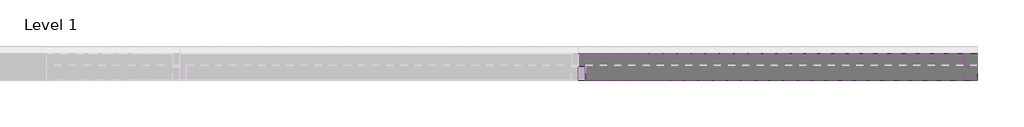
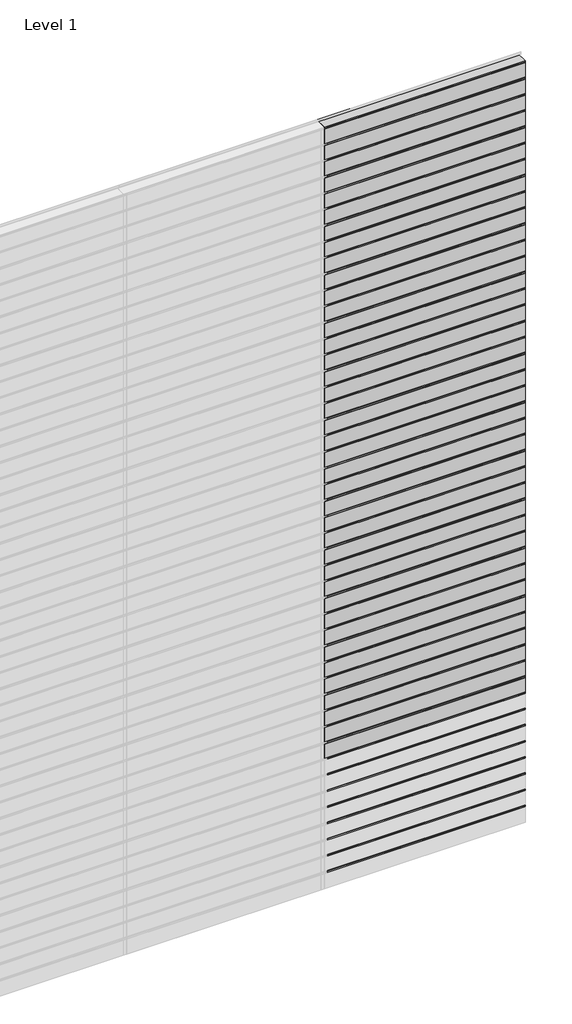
# One storey, part 6 of 6: 87 plates, 47 members.
"""IFC4 building model written with IfcOpenShell, lengths in millimetres."""

import ifcopenshell
import ifcopenshell.guid

model = None  # the IFC model being written
_history = None  # IfcOwnerHistory: only IFC2X3 demands one
_inside = {}  # id of a spatial element -> (the spatial element, [elements in it])
_under = {}  # id of a project, library or spatial element -> (it, [spatial elements below it])
_declared = {}  # id of a project -> (the project, [libraries it declares])
_typed = {}  # id of a type object -> (the type object, [elements of that type])
_made_of = {}  # id of a material, layer set ... -> (it, [elements and type objects made of it])


def new_model(schema):
    """Start an empty IFC model of exactly this schema.

    Asked for "IFC4X3", IfcOpenShell would pick the latest addendum, in which some entities
    have other attributes; the version numbers below select the first issue.
    IFC2X3 requires an IfcOwnerHistory on every rooted entity: one is made here for all.
    """
    global model, _history
    if schema == "IFC4X3":
        model = ifcopenshell.file(schema_version=(4, 3, 0, 0))
    else:
        model = ifcopenshell.file(schema=schema)
    _inside.clear()
    _under.clear()
    _declared.clear()
    _typed.clear()
    _made_of.clear()
    _history = None
    if model.schema == "IFC2X3":
        org = make("IfcOrganization", Name="unknown")
        user = make(
            "IfcPersonAndOrganization",
            ThePerson=make("IfcPerson", FamilyName="unknown"),
            TheOrganization=org,
        )
        app = make(
            "IfcApplication",
            ApplicationDeveloper=org,
            Version="unknown",
            ApplicationFullName="unknown",
            ApplicationIdentifier="unknown",
        )
        _history = make(
            "IfcOwnerHistory",
            OwningUser=user,
            OwningApplication=app,
            ChangeAction="ADDED",
            CreationDate=0,
        )
    return model


def make(cls, **values):
    """One entity of the class cls with the attributes given. An attribute that is None is left unset."""
    return model.create_entity(
        cls, **{name: value for name, value in values.items() if value is not None}
    )


def rooted(cls, **values):
    """An entity with a GlobalId (a new one), such as an element, a storey or a relation."""
    return make(cls, GlobalId=ifcopenshell.guid.new(), OwnerHistory=_history, **values)


def si_unit(unit_type, name, prefix=None):
    """IfcSIUnit, for example si_unit("LENGTHUNIT", "METRE", prefix="MILLI")."""
    return make("IfcSIUnit", UnitType=unit_type, Prefix=prefix, Name=name)


def assignment(units):
    """IfcUnitAssignment: the units of a project."""
    return None if units is None else make("IfcUnitAssignment", Units=units)


def point(xyz):
    """IfcCartesianPoint."""
    return None if xyz is None else make("IfcCartesianPoint", Coordinates=xyz)


def direction(xyz):
    """IfcDirection."""
    return None if xyz is None else make("IfcDirection", DirectionRatios=xyz)


def frame(location, z_axis=None, x_axis=None):
    """IfcAxis2Placement3D, a coordinate frame: its origin and axes. An axis left out is left unset."""
    return make(
        "IfcAxis2Placement3D",
        Location=point(location),
        Axis=direction(z_axis),
        RefDirection=direction(x_axis),
    )


def origin():
    """The frame at (0, 0, 0) with its axes left unset."""
    return frame((0.0, 0.0, 0.0))


def origin_with_axes():
    """The frame at (0, 0, 0) with the z axis (0, 0, 1) and the x axis (1, 0, 0) written out."""
    return frame((0.0, 0.0, 0.0), z_axis=(0.0, 0.0, 1.0), x_axis=(1.0, 0.0, 0.0))


def place(relative_to, where):
    """IfcLocalPlacement: puts the frame where relative to a parent placement (None: the world)."""
    return make(
        "IfcLocalPlacement", PlacementRelTo=relative_to, RelativePlacement=where
    )


def context(
    kind, dimensions, precision=None, world=None, true_north=None, identifier=None
):
    """IfcGeometricRepresentationContext, for example the 3D "Model" context."""
    return make(
        "IfcGeometricRepresentationContext",
        ContextIdentifier=identifier,
        ContextType=kind,
        CoordinateSpaceDimension=dimensions,
        Precision=precision,
        WorldCoordinateSystem=world,
        TrueNorth=true_north,
    )


def project(units=None, contexts=None):
    """IfcProject with its units and contexts."""
    return rooted(
        "IfcProject",
        Name="project",
        RepresentationContexts=contexts,
        UnitsInContext=assignment(units),
    )


def spatial(cls, under=None, at=None, **own):
    """A site, building, storey or space (cls), placed at a placement, below another one or the project."""
    s = rooted(cls, ObjectPlacement=at, **own)
    if under is not None:
        _under.setdefault(under.id(), (under, []))[1].append(s)
    return s


def polyline(points):
    """IfcPolyline through the points."""
    return make("IfcPolyline", Points=[point(p) for p in points])


def outline(outer, holes=None, kind="AREA"):
    """IfcArbitraryClosedProfileDef: a profile drawn as a closed curve; with holes, ...WithVoids."""
    if holes is None:
        return make("IfcArbitraryClosedProfileDef", ProfileType=kind, OuterCurve=outer)
    return make(
        "IfcArbitraryProfileDefWithVoids",
        ProfileType=kind,
        OuterCurve=outer,
        InnerCurves=holes,
    )


def extrude(swept, where, along, depth):
    """IfcExtrudedAreaSolid: the profile swept, set in the frame where, extruded along a direction by depth."""
    return make(
        "IfcExtrudedAreaSolid",
        SweptArea=swept,
        Position=where,
        ExtrudedDirection=direction(along),
        Depth=depth,
    )


def shape(context_of_items, identifier, shape_type, items):
    """IfcShapeRepresentation: the items that make up one representation, for example the "Body"."""
    return make(
        "IfcShapeRepresentation",
        ContextOfItems=context_of_items,
        RepresentationIdentifier=identifier,
        RepresentationType=shape_type,
        Items=items,
    )


def source(mapping_origin, context_of_items, identifier, shape_type, items):
    """IfcRepresentationMap: a shape defined once, which mapped items show again and again."""
    return make(
        "IfcRepresentationMap",
        MappingOrigin=mapping_origin,
        MappedRepresentation=shape(context_of_items, identifier, shape_type, items),
    )


def transform(
    local_origin,
    x_axis=None,
    y_axis=None,
    z_axis=None,
    scale=None,
    scale2=None,
    scale3=None,
    uniform=True,
):
    """IfcCartesianTransformationOperator3D, or its non-uniform kind. x_axis, y_axis, z_axis: its Axis1, 2, 3."""
    if uniform:
        return make(
            "IfcCartesianTransformationOperator3D",
            Axis1=direction(x_axis),
            Axis2=direction(y_axis),
            LocalOrigin=point(local_origin),
            Scale=scale,
            Axis3=direction(z_axis),
        )
    return make(
        "IfcCartesianTransformationOperator3DnonUniform",
        Axis1=direction(x_axis),
        Axis2=direction(y_axis),
        LocalOrigin=point(local_origin),
        Scale=scale,
        Axis3=direction(z_axis),
        Scale2=scale2,
        Scale3=scale3,
    )


def mapped(mapping_source, mapping_target):
    """IfcMappedItem: shows the shape of a source again, moved by a transform."""
    return make(
        "IfcMappedItem", MappingSource=mapping_source, MappingTarget=mapping_target
    )


def made_of(thing, what):
    """Note that an element or type object is made of a material, layer set ...; save() writes the relation."""
    if what is not None:
        _made_of.setdefault(what.id(), (what, []))[1].append(thing)
    return thing


def element(
    cls,
    number,
    at=None,
    inside=None,
    cuts=None,
    type_object=None,
    material=None,
    context=None,
    identifier="Body",
    shape_type=None,
    held_by="IfcProductDefinitionShape",
    body=None,
    shapes=None,
    **own,
):
    """One element of the class cls, such as IfcWall. Its Tag is "e" and its number.

    at: its placement. inside: the storey or other place that contains it. cuts: it is an
    opening in that element (IfcRelVoidsElement). A single representation is given by context,
    identifier, shape_type and body (its items); several are given by shapes. held_by: the class
    of the entity that holds the representations. save() writes the other relations.
    """
    e = rooted(cls, Tag="e%d" % number, ObjectPlacement=at, **own)
    if body is not None:
        shapes = [shape(context, identifier, shape_type, body)]
    if shapes is not None:
        e.Representation = make(held_by, Representations=shapes)
    if inside is not None:
        _inside.setdefault(inside.id(), (inside, []))[1].append(e)
    if cuts is not None:
        rooted(
            "IfcRelVoidsElement", RelatingBuildingElement=cuts, RelatedOpeningElement=e
        )
    if type_object is not None:
        _typed.setdefault(type_object.id(), (type_object, []))[1].append(e)
    return made_of(e, material)


def aggregate(whole, parts):
    """IfcRelAggregates: a whole, such as a stair, and the parts it consists of."""
    return rooted("IfcRelAggregates", RelatingObject=whole, RelatedObjects=parts)


def save(model, path):
    """Write the relations noted so far, then the file.

    IfcRelAggregates (storeys below a building ...), IfcRelContainedInSpatialStructure (elements
    in a storey), IfcRelDefinesByType, IfcRelAssociatesMaterial and IfcRelDeclares: one each for
    every whole, place, type object, material and project.
    """
    for whole, parts in _under.values():
        aggregate(whole, parts)
    for where, things in _inside.values():
        rooted(
            "IfcRelContainedInSpatialStructure",
            RelatedElements=things,
            RelatingStructure=where,
        )
    for kind, things in _typed.values():
        rooted("IfcRelDefinesByType", RelatedObjects=things, RelatingType=kind)
    for what, things in _made_of.values():
        rooted("IfcRelAssociatesMaterial", RelatedObjects=things, RelatingMaterial=what)
    for by, libraries in _declared.values():
        rooted("IfcRelDeclares", RelatingContext=by, RelatedDefinitions=libraries)
    model.write(path)


def rectangular_mullion_5ead61f5(model_context):
    return source(origin(), model_context, "Body", "SweptSolid", [
        extrude(outline(polyline([(-50.0, 1.0), (0.0, 1.0), (0.0, -49.0), (-50.0, -49.0), (-50.0, 1.0)])), frame((0.0, 0.0, -127.5), z_axis=(0.0, 0.0, 1.0), x_axis=(1.0, 0.0, 0.0)), (0.0, 0.0, 1.0), 127.5),
    ])


def empty_system_panel_empty_a47fb649(model_context):
    return source(origin(), model_context, "Body", "SweptSolid", [
        extrude(outline(polyline([(750.0, -50.0), (-750.0, -50.0), (-750.0, 50.0), (750.0, 50.0), (750.0, -50.0)])), origin_with_axes(), (0.0, 0.0, 1.0), 110.5294373),
    ])


def empty_system_panel_empty_cd94e0d4(model_context):
    return source(origin(), model_context, "Body", "SweptSolid", [
        extrude(outline(polyline([(712.5, -50.0), (-712.5, -50.0), (-712.5, 50.0), (712.5, 50.0), (712.5, -50.0)])), origin_with_axes(), (0.0, 0.0, 1.0), 127.5),
    ])


def empty_system_panel_empty_03f415d5(model_context):
    return source(origin(), model_context, "Body", "SweptSolid", [
        extrude(outline(polyline([(750.0, -50.0), (-750.0, -50.0), (-750.0, 50.0), (750.0, 50.0), (750.0, -50.0)])), origin_with_axes(), (0.0, 0.0, 1.0), 7.5),
    ])


model = new_model("IFC4")

# Units and contexts
model_context = context("Model", 3, world=origin())
ifc_project = project(units=[si_unit("LENGTHUNIT", "METRE", prefix="MILLI")], contexts=[model_context])

# Site, building, storey
site = spatial("IfcSite", under=ifc_project)
building = spatial("IfcBuilding", under=site)
storey = spatial("IfcBuildingStorey", under=building, Name="Level 1", Elevation=0.0)

# Members
placement = place(None, origin())
rectangular_mullion_shape = rectangular_mullion_5ead61f5(model_context)
element("IfcMember", 1, ObjectType="Rectangular Mullion : RSen_21_CWM_support profile 50x50 - right_gen_duco projects", at=placement, inside=storey, context=model_context, shape_type="MappedRepresentation", body=[
    mapped(rectangular_mullion_shape, transform((6000.0, 3000.0, 127.5), x_axis=(1.0, 0.0, 0.0), y_axis=(0.0, 1.0, 0.0), z_axis=(0.0, 0.0, 1.0))),
])
element("IfcMember", 2, ObjectType="Rectangular Mullion : RSen_21_CWM_support profile 50x50 - right_gen_duco projects", at=placement, inside=storey, context=model_context, shape_type="MappedRepresentation", body=[
    mapped(rectangular_mullion_shape, transform((6000.0, 3000.0, 255.0), x_axis=(1.0, 0.0, 0.0), y_axis=(0.0, 1.0, 0.0), z_axis=(0.0, 0.0, 1.0))),
])
element("IfcMember", 3, ObjectType="Rectangular Mullion : RSen_21_CWM_support profile 50x50 - right_gen_duco projects", at=placement, inside=storey, context=model_context, shape_type="MappedRepresentation", body=[
    mapped(rectangular_mullion_shape, transform((6000.0, 3000.0, 382.5), x_axis=(1.0, 0.0, 0.0), y_axis=(0.0, 1.0, 0.0), z_axis=(0.0, 0.0, 1.0))),
])
element("IfcMember", 4, ObjectType="Rectangular Mullion : RSen_21_CWM_support profile 50x50 - right_gen_duco projects", at=placement, inside=storey, context=model_context, shape_type="MappedRepresentation", body=[
    mapped(rectangular_mullion_shape, transform((6000.0, 3000.0, 510.0), x_axis=(1.0, 0.0, 0.0), y_axis=(0.0, 1.0, 0.0), z_axis=(0.0, 0.0, 1.0))),
])
element("IfcMember", 5, ObjectType="Rectangular Mullion : RSen_21_CWM_support profile 50x50 - right_gen_duco projects", at=placement, inside=storey, context=model_context, shape_type="MappedRepresentation", body=[
    mapped(rectangular_mullion_shape, transform((6000.0, 3000.0, 637.5), x_axis=(1.0, 0.0, 0.0), y_axis=(0.0, 1.0, 0.0), z_axis=(0.0, 0.0, 1.0))),
])
element("IfcMember", 6, ObjectType="Rectangular Mullion : RSen_21_CWM_support profile 50x50 - right_gen_duco projects", at=placement, inside=storey, context=model_context, shape_type="MappedRepresentation", body=[
    mapped(rectangular_mullion_shape, transform((6000.0, 3000.0, 765.0), x_axis=(1.0, 0.0, 0.0), y_axis=(0.0, 1.0, 0.0), z_axis=(0.0, 0.0, 1.0))),
])
element("IfcMember", 7, ObjectType="Rectangular Mullion : RSen_21_CWM_support profile 50x50 - right_gen_duco projects", at=placement, inside=storey, context=model_context, shape_type="MappedRepresentation", body=[
    mapped(rectangular_mullion_shape, transform((6000.0, 3000.0, 892.5), x_axis=(1.0, 0.0, 0.0), y_axis=(0.0, 1.0, 0.0), z_axis=(0.0, 0.0, 1.0))),
])
element("IfcMember", 8, ObjectType="Rectangular Mullion : RSen_21_CWM_support profile 50x50 - right_gen_duco projects", at=placement, inside=storey, context=model_context, shape_type="MappedRepresentation", body=[
    mapped(rectangular_mullion_shape, transform((6000.0, 3000.0, 1020.0), x_axis=(1.0, 0.0, 0.0), y_axis=(0.0, 1.0, 0.0), z_axis=(0.0, 0.0, 1.0))),
])
element("IfcMember", 9, ObjectType="Rectangular Mullion : RSen_21_CWM_support profile 50x50 - right_gen_duco projects", at=placement, inside=storey, context=model_context, shape_type="MappedRepresentation", body=[
    mapped(rectangular_mullion_shape, transform((6000.0, 3000.0, 1147.5), x_axis=(1.0, 0.0, 0.0), y_axis=(0.0, 1.0, 0.0), z_axis=(0.0, 0.0, 1.0))),
])
element("IfcMember", 10, ObjectType="Rectangular Mullion : RSen_21_CWM_support profile 50x50 - right_gen_duco projects", at=placement, inside=storey, context=model_context, shape_type="MappedRepresentation", body=[
    mapped(rectangular_mullion_shape, transform((6000.0, 3000.0, 1275.0), x_axis=(1.0, 0.0, 0.0), y_axis=(0.0, 1.0, 0.0), z_axis=(0.0, 0.0, 1.0))),
])
element("IfcMember", 11, ObjectType="Rectangular Mullion : RSen_21_CWM_support profile 50x50 - right_gen_duco projects", at=placement, inside=storey, context=model_context, shape_type="MappedRepresentation", body=[
    mapped(rectangular_mullion_shape, transform((6000.0, 3000.0, 1402.5), x_axis=(1.0, 0.0, 0.0), y_axis=(0.0, 1.0, 0.0), z_axis=(0.0, 0.0, 1.0))),
])
element("IfcMember", 12, ObjectType="Rectangular Mullion : RSen_21_CWM_support profile 50x50 - right_gen_duco projects", at=placement, inside=storey, context=model_context, shape_type="MappedRepresentation", body=[
    mapped(rectangular_mullion_shape, transform((6000.0, 3000.0, 1530.0), x_axis=(1.0, 0.0, 0.0), y_axis=(0.0, 1.0, 0.0), z_axis=(0.0, 0.0, 1.0))),
])
element("IfcMember", 13, ObjectType="Rectangular Mullion : RSen_21_CWM_support profile 50x50 - right_gen_duco projects", at=placement, inside=storey, context=model_context, shape_type="MappedRepresentation", body=[
    mapped(rectangular_mullion_shape, transform((6000.0, 3000.0, 1657.5), x_axis=(1.0, 0.0, 0.0), y_axis=(0.0, 1.0, 0.0), z_axis=(0.0, 0.0, 1.0))),
])
element("IfcMember", 14, ObjectType="Rectangular Mullion : RSen_21_CWM_support profile 50x50 - right_gen_duco projects", at=placement, inside=storey, context=model_context, shape_type="MappedRepresentation", body=[
    mapped(rectangular_mullion_shape, transform((6000.0, 3000.0, 1785.0), x_axis=(1.0, 0.0, 0.0), y_axis=(0.0, 1.0, 0.0), z_axis=(0.0, 0.0, 1.0))),
])
element("IfcMember", 15, ObjectType="Rectangular Mullion : RSen_21_CWM_support profile 50x50 - right_gen_duco projects", at=placement, inside=storey, context=model_context, shape_type="MappedRepresentation", body=[
    mapped(rectangular_mullion_shape, transform((6000.0, 3000.0, 1912.5), x_axis=(1.0, 0.0, 0.0), y_axis=(0.0, 1.0, 0.0), z_axis=(0.0, 0.0, 1.0))),
])
element("IfcMember", 16, ObjectType="Rectangular Mullion : RSen_21_CWM_support profile 50x50 - right_gen_duco projects", at=placement, inside=storey, context=model_context, shape_type="MappedRepresentation", body=[
    mapped(rectangular_mullion_shape, transform((6000.0, 3000.0, 2040.0), x_axis=(1.0, 0.0, 0.0), y_axis=(0.0, 1.0, 0.0), z_axis=(0.0, 0.0, 1.0))),
])
element("IfcMember", 17, ObjectType="Rectangular Mullion : RSen_21_CWM_support profile 50x50 - right_gen_duco projects", at=placement, inside=storey, context=model_context, shape_type="MappedRepresentation", body=[
    mapped(rectangular_mullion_shape, transform((6000.0, 3000.0, 2167.5), x_axis=(1.0, 0.0, 0.0), y_axis=(0.0, 1.0, 0.0), z_axis=(0.0, 0.0, 1.0))),
])
element("IfcMember", 18, ObjectType="Rectangular Mullion : RSen_21_CWM_support profile 50x50 - right_gen_duco projects", at=placement, inside=storey, context=model_context, shape_type="MappedRepresentation", body=[
    mapped(rectangular_mullion_shape, transform((6000.0, 3000.0, 2295.0), x_axis=(1.0, 0.0, 0.0), y_axis=(0.0, 1.0, 0.0), z_axis=(0.0, 0.0, 1.0))),
])
element("IfcMember", 19, ObjectType="Rectangular Mullion : RSen_21_CWM_support profile 50x50 - right_gen_duco projects", at=placement, inside=storey, context=model_context, shape_type="MappedRepresentation", body=[
    mapped(rectangular_mullion_shape, transform((6000.0, 3000.0, 2422.5), x_axis=(1.0, 0.0, 0.0), y_axis=(0.0, 1.0, 0.0), z_axis=(0.0, 0.0, 1.0))),
])
element("IfcMember", 20, ObjectType="Rectangular Mullion : RSen_21_CWM_support profile 50x50 - right_gen_duco projects", at=placement, inside=storey, context=model_context, shape_type="MappedRepresentation", body=[
    mapped(rectangular_mullion_shape, transform((6000.0, 3000.0, 2550.0), x_axis=(1.0, 0.0, 0.0), y_axis=(0.0, 1.0, 0.0), z_axis=(0.0, 0.0, 1.0))),
])
element("IfcMember", 21, ObjectType="Rectangular Mullion : RSen_21_CWM_support profile 50x50 - right_gen_duco projects", at=placement, inside=storey, context=model_context, shape_type="MappedRepresentation", body=[
    mapped(rectangular_mullion_shape, transform((6000.0, 3000.0, 2677.5), x_axis=(1.0, 0.0, 0.0), y_axis=(0.0, 1.0, 0.0), z_axis=(0.0, 0.0, 1.0))),
])
element("IfcMember", 22, ObjectType="Rectangular Mullion : RSen_21_CWM_support profile 50x50 - right_gen_duco projects", at=placement, inside=storey, context=model_context, shape_type="MappedRepresentation", body=[
    mapped(rectangular_mullion_shape, transform((6000.0, 3000.0, 2805.0), x_axis=(1.0, 0.0, 0.0), y_axis=(0.0, 1.0, 0.0), z_axis=(0.0, 0.0, 1.0))),
])
element("IfcMember", 23, ObjectType="Rectangular Mullion : RSen_21_CWM_support profile 50x50 - right_gen_duco projects", at=placement, inside=storey, context=model_context, shape_type="MappedRepresentation", body=[
    mapped(rectangular_mullion_shape, transform((6000.0, 3000.0, 2932.5), x_axis=(1.0, 0.0, 0.0), y_axis=(0.0, 1.0, 0.0), z_axis=(0.0, 0.0, 1.0))),
])
element("IfcMember", 24, ObjectType="Rectangular Mullion : RSen_21_CWM_support profile 50x50 - right_gen_duco projects", at=placement, inside=storey, context=model_context, shape_type="MappedRepresentation", body=[
    mapped(rectangular_mullion_shape, transform((6000.0, 3000.0, 3060.0), x_axis=(1.0, 0.0, 0.0), y_axis=(0.0, 1.0, 0.0), z_axis=(0.0, 0.0, 1.0))),
])
element("IfcMember", 25, ObjectType="Rectangular Mullion : RSen_21_CWM_support profile 50x50 - right_gen_duco projects", at=placement, inside=storey, context=model_context, shape_type="MappedRepresentation", body=[
    mapped(rectangular_mullion_shape, transform((6000.0, 3000.0, 3187.5), x_axis=(1.0, 0.0, 0.0), y_axis=(0.0, 1.0, 0.0), z_axis=(0.0, 0.0, 1.0))),
])
element("IfcMember", 26, ObjectType="Rectangular Mullion : RSen_21_CWM_support profile 50x50 - right_gen_duco projects", at=placement, inside=storey, context=model_context, shape_type="MappedRepresentation", body=[
    mapped(rectangular_mullion_shape, transform((6000.0, 3000.0, 3315.0), x_axis=(1.0, 0.0, 0.0), y_axis=(0.0, 1.0, 0.0), z_axis=(0.0, 0.0, 1.0))),
])
element("IfcMember", 27, ObjectType="Rectangular Mullion : RSen_21_CWM_support profile 50x50 - right_gen_duco projects", at=placement, inside=storey, context=model_context, shape_type="MappedRepresentation", body=[
    mapped(rectangular_mullion_shape, transform((6000.0, 3000.0, 3442.5), x_axis=(1.0, 0.0, 0.0), y_axis=(0.0, 1.0, 0.0), z_axis=(0.0, 0.0, 1.0))),
])
element("IfcMember", 28, ObjectType="Rectangular Mullion : RSen_21_CWM_support profile 50x50 - right_gen_duco projects", at=placement, inside=storey, context=model_context, shape_type="MappedRepresentation", body=[
    mapped(rectangular_mullion_shape, transform((6000.0, 3000.0, 3570.0), x_axis=(1.0, 0.0, 0.0), y_axis=(0.0, 1.0, 0.0), z_axis=(0.0, 0.0, 1.0))),
])
element("IfcMember", 29, ObjectType="Rectangular Mullion : RSen_21_CWM_support profile 50x50 - right_gen_duco projects", at=placement, inside=storey, context=model_context, shape_type="MappedRepresentation", body=[
    mapped(rectangular_mullion_shape, transform((6000.0, 3000.0, 3697.5), x_axis=(1.0, 0.0, 0.0), y_axis=(0.0, 1.0, 0.0), z_axis=(0.0, 0.0, 1.0))),
])
element("IfcMember", 30, ObjectType="Rectangular Mullion : RSen_21_CWM_support profile 50x50 - right_gen_duco projects", at=placement, inside=storey, context=model_context, shape_type="MappedRepresentation", body=[
    mapped(rectangular_mullion_shape, transform((6000.0, 3000.0, 3825.0), x_axis=(1.0, 0.0, 0.0), y_axis=(0.0, 1.0, 0.0), z_axis=(0.0, 0.0, 1.0))),
])
element("IfcMember", 31, ObjectType="Rectangular Mullion : RSen_21_CWM_support profile 50x50 - right_gen_duco projects", at=placement, inside=storey, context=model_context, shape_type="MappedRepresentation", body=[
    mapped(rectangular_mullion_shape, transform((6000.0, 3000.0, 3952.5), x_axis=(1.0, 0.0, 0.0), y_axis=(0.0, 1.0, 0.0), z_axis=(0.0, 0.0, 1.0))),
])
element("IfcMember", 32, ObjectType="Rectangular Mullion : RSen_21_CWM_support profile 50x50 - right_gen_duco projects", at=placement, inside=storey, context=model_context, shape_type="MappedRepresentation", body=[
    mapped(rectangular_mullion_shape, transform((6000.0, 3000.0, 4080.0), x_axis=(1.0, 0.0, 0.0), y_axis=(0.0, 1.0, 0.0), z_axis=(0.0, 0.0, 1.0))),
])
element("IfcMember", 33, ObjectType="Rectangular Mullion : RSen_21_CWM_support profile 50x50 - right_gen_duco projects", at=placement, inside=storey, context=model_context, shape_type="MappedRepresentation", body=[
    mapped(rectangular_mullion_shape, transform((6000.0, 3000.0, 4207.5), x_axis=(1.0, 0.0, 0.0), y_axis=(0.0, 1.0, 0.0), z_axis=(0.0, 0.0, 1.0))),
])
element("IfcMember", 34, ObjectType="Rectangular Mullion : RSen_21_CWM_support profile 50x50 - right_gen_duco projects", at=placement, inside=storey, context=model_context, shape_type="MappedRepresentation", body=[
    mapped(rectangular_mullion_shape, transform((6000.0, 3000.0, 4335.0), x_axis=(1.0, 0.0, 0.0), y_axis=(0.0, 1.0, 0.0), z_axis=(0.0, 0.0, 1.0))),
])
element("IfcMember", 35, ObjectType="Rectangular Mullion : RSen_21_CWM_support profile 50x50 - right_gen_duco projects", at=placement, inside=storey, context=model_context, shape_type="MappedRepresentation", body=[
    mapped(rectangular_mullion_shape, transform((6000.0, 3000.0, 4462.5), x_axis=(1.0, 0.0, 0.0), y_axis=(0.0, 1.0, 0.0), z_axis=(0.0, 0.0, 1.0))),
])
element("IfcMember", 36, ObjectType="Rectangular Mullion : RSen_21_CWM_support profile 50x50 - right_gen_duco projects", at=placement, inside=storey, context=model_context, shape_type="MappedRepresentation", body=[
    mapped(rectangular_mullion_shape, transform((6000.0, 3000.0, 4590.0), x_axis=(1.0, 0.0, 0.0), y_axis=(0.0, 1.0, 0.0), z_axis=(0.0, 0.0, 1.0))),
])
element("IfcMember", 37, ObjectType="Rectangular Mullion : RSen_21_CWM_support profile 50x50 - right_gen_duco projects", at=placement, inside=storey, context=model_context, shape_type="MappedRepresentation", body=[
    mapped(rectangular_mullion_shape, transform((6000.0, 3000.0, 4717.5), x_axis=(1.0, 0.0, 0.0), y_axis=(0.0, 1.0, 0.0), z_axis=(0.0, 0.0, 1.0))),
])
element("IfcMember", 38, ObjectType="Rectangular Mullion : RSen_21_CWM_support profile 50x50 - right_gen_duco projects", at=placement, inside=storey, context=model_context, shape_type="MappedRepresentation", body=[
    mapped(rectangular_mullion_shape, transform((6000.0, 3000.0, 4845.0), x_axis=(1.0, 0.0, 0.0), y_axis=(0.0, 1.0, 0.0), z_axis=(0.0, 0.0, 1.0))),
])
element("IfcMember", 39, ObjectType="Rectangular Mullion : RSen_21_CWM_support profile 50x50 - right_gen_duco projects", at=placement, inside=storey, context=model_context, shape_type="MappedRepresentation", body=[
    mapped(rectangular_mullion_shape, transform((6000.0, 3000.0, 4972.5), x_axis=(1.0, 0.0, 0.0), y_axis=(0.0, 1.0, 0.0), z_axis=(0.0, 0.0, 1.0))),
])
element("IfcMember", 40, ObjectType="Rectangular Mullion : RSen_21_CWM_support profile 50x50 - right_gen_duco projects", at=placement, inside=storey, context=model_context, shape_type="MappedRepresentation", body=[
    mapped(rectangular_mullion_shape, transform((6000.0, 3000.0, 5100.0), x_axis=(1.0, 0.0, 0.0), y_axis=(0.0, 1.0, 0.0), z_axis=(0.0, 0.0, 1.0))),
])
element("IfcMember", 41, ObjectType="Rectangular Mullion : RSen_21_CWM_support profile 50x50 - right_gen_duco projects", at=placement, inside=storey, context=model_context, shape_type="MappedRepresentation", body=[
    mapped(rectangular_mullion_shape, transform((6000.0, 3000.0, 5227.5), x_axis=(1.0, 0.0, 0.0), y_axis=(0.0, 1.0, 0.0), z_axis=(0.0, 0.0, 1.0))),
])
element("IfcMember", 42, ObjectType="Rectangular Mullion : RSen_21_CWM_support profile 50x50 - right_gen_duco projects", at=placement, inside=storey, context=model_context, shape_type="MappedRepresentation", body=[
    mapped(rectangular_mullion_shape, transform((6000.0, 3000.0, 5355.0), x_axis=(1.0, 0.0, 0.0), y_axis=(0.0, 1.0, 0.0), z_axis=(0.0, 0.0, 1.0))),
])
element("IfcMember", 43, ObjectType="Rectangular Mullion : RSen_21_CWM_support profile 50x50 - right_gen_duco projects", at=placement, inside=storey, context=model_context, shape_type="MappedRepresentation", body=[
    mapped(rectangular_mullion_shape, transform((6000.0, 3000.0, 5482.5), x_axis=(1.0, 0.0, 0.0), y_axis=(0.0, 1.0, 0.0), z_axis=(0.0, 0.0, 1.0))),
])
element("IfcMember", 44, ObjectType="Rectangular Mullion : RSen_21_CWM_support profile 50x50 - right_gen_duco projects", at=placement, inside=storey, context=model_context, shape_type="MappedRepresentation", body=[
    mapped(rectangular_mullion_shape, transform((6000.0, 3000.0, 5610.0), x_axis=(1.0, 0.0, 0.0), y_axis=(0.0, 1.0, 0.0), z_axis=(0.0, 0.0, 1.0))),
])
element("IfcMember", 45, ObjectType="Rectangular Mullion : RSen_21_CWM_support profile 50x50 - right_gen_duco projects", at=placement, inside=storey, context=model_context, shape_type="MappedRepresentation", body=[
    mapped(rectangular_mullion_shape, transform((6000.0, 3000.0, 5737.5), x_axis=(1.0, 0.0, 0.0), y_axis=(0.0, 1.0, 0.0), z_axis=(0.0, 0.0, 1.0))),
])
element("IfcMember", 46, ObjectType="Rectangular Mullion : RSen_21_CWM_support profile 50x50 - right_gen_duco projects", at=placement, inside=storey, context=model_context, shape_type="MappedRepresentation", body=[
    mapped(rectangular_mullion_shape, transform((6000.0, 3000.0, 5865.0), x_axis=(1.0, 0.0, 0.0), y_axis=(0.0, 1.0, 0.0), z_axis=(0.0, 0.0, 1.0))),
])
element("IfcMember", 47, ObjectType="Rectangular Mullion : RSen_21_CWM_support profile 50x50 - right_gen_duco projects", at=placement, inside=storey, context=model_context, shape_type="MappedRepresentation", body=[
    mapped(rectangular_mullion_shape, transform((6000.0, 3000.0, 5992.5), x_axis=(1.0, 0.0, 0.0), y_axis=(0.0, 1.0, 0.0), z_axis=(0.0, 0.0, 1.0))),
])

# Plates
empty_system_panel_empty_shape = empty_system_panel_empty_a47fb649(model_context)
element("IfcPlate", 48, ObjectType="Empty System Panel : Empty", at=placement, inside=storey, context=model_context, shape_type="MappedRepresentation", body=[
    mapped(empty_system_panel_empty_shape, transform((5250.0, 3000.0, 1028.4852814), x_axis=(-1.0, 0.0, 0.0), y_axis=(0.0, -1.0, 0.0), z_axis=(0.0, 0.0, 1.0))),
])
element("IfcPlate", 49, ObjectType="Empty System Panel : Empty", at=placement, inside=storey, context=model_context, shape_type="MappedRepresentation", body=[
    mapped(empty_system_panel_empty_shape, transform((5250.0, 3000.0, 1155.9852814), x_axis=(-1.0, 0.0, 0.0), y_axis=(0.0, -1.0, 0.0), z_axis=(0.0, 0.0, 1.0))),
])
element("IfcPlate", 50, ObjectType="Empty System Panel : Empty", at=placement, inside=storey, context=model_context, shape_type="MappedRepresentation", body=[
    mapped(empty_system_panel_empty_shape, transform((5250.0, 3000.0, 1283.4852814), x_axis=(-1.0, 0.0, 0.0), y_axis=(0.0, -1.0, 0.0), z_axis=(0.0, 0.0, 1.0))),
])
element("IfcPlate", 51, ObjectType="Empty System Panel : Empty", at=placement, inside=storey, context=model_context, shape_type="MappedRepresentation", body=[
    mapped(empty_system_panel_empty_shape, transform((5250.0, 3000.0, 1410.9852814), x_axis=(-1.0, 0.0, 0.0), y_axis=(0.0, -1.0, 0.0), z_axis=(0.0, 0.0, 1.0))),
])
element("IfcPlate", 52, ObjectType="Empty System Panel : Empty", at=placement, inside=storey, context=model_context, shape_type="MappedRepresentation", body=[
    mapped(empty_system_panel_empty_shape, transform((5250.0, 3000.0, 1538.4852814), x_axis=(-1.0, 0.0, 0.0), y_axis=(0.0, -1.0, 0.0), z_axis=(0.0, 0.0, 1.0))),
])
element("IfcPlate", 53, ObjectType="Empty System Panel : Empty", at=placement, inside=storey, context=model_context, shape_type="MappedRepresentation", body=[
    mapped(empty_system_panel_empty_shape, transform((5250.0, 3000.0, 1665.9852814), x_axis=(-1.0, 0.0, 0.0), y_axis=(0.0, -1.0, 0.0), z_axis=(0.0, 0.0, 1.0))),
])
element("IfcPlate", 54, ObjectType="Empty System Panel : Empty", at=placement, inside=storey, context=model_context, shape_type="MappedRepresentation", body=[
    mapped(empty_system_panel_empty_shape, transform((5250.0, 3000.0, 1793.4852814), x_axis=(-1.0, 0.0, 0.0), y_axis=(0.0, -1.0, 0.0), z_axis=(0.0, 0.0, 1.0))),
])
element("IfcPlate", 55, ObjectType="Empty System Panel : Empty", at=placement, inside=storey, context=model_context, shape_type="MappedRepresentation", body=[
    mapped(empty_system_panel_empty_shape, transform((5250.0, 3000.0, 1920.9852814), x_axis=(-1.0, 0.0, 0.0), y_axis=(0.0, -1.0, 0.0), z_axis=(0.0, 0.0, 1.0))),
])
element("IfcPlate", 56, ObjectType="Empty System Panel : Empty", at=placement, inside=storey, context=model_context, shape_type="MappedRepresentation", body=[
    mapped(empty_system_panel_empty_shape, transform((5250.0, 3000.0, 2048.4852814), x_axis=(-1.0, 0.0, 0.0), y_axis=(0.0, -1.0, 0.0), z_axis=(0.0, 0.0, 1.0))),
])
element("IfcPlate", 57, ObjectType="Empty System Panel : Empty", at=placement, inside=storey, context=model_context, shape_type="MappedRepresentation", body=[
    mapped(empty_system_panel_empty_shape, transform((5250.0, 3000.0, 2175.9852814), x_axis=(-1.0, 0.0, 0.0), y_axis=(0.0, -1.0, 0.0), z_axis=(0.0, 0.0, 1.0))),
])
element("IfcPlate", 58, ObjectType="Empty System Panel : Empty", at=placement, inside=storey, context=model_context, shape_type="MappedRepresentation", body=[
    mapped(empty_system_panel_empty_shape, transform((5250.0, 3000.0, 2303.4852814), x_axis=(-1.0, 0.0, 0.0), y_axis=(0.0, -1.0, 0.0), z_axis=(0.0, 0.0, 1.0))),
])
element("IfcPlate", 59, ObjectType="Empty System Panel : Empty", at=placement, inside=storey, context=model_context, shape_type="MappedRepresentation", body=[
    mapped(empty_system_panel_empty_shape, transform((5250.0, 3000.0, 2430.9852814), x_axis=(-1.0, 0.0, 0.0), y_axis=(0.0, -1.0, 0.0), z_axis=(0.0, 0.0, 1.0))),
])
element("IfcPlate", 60, ObjectType="Empty System Panel : Empty", at=placement, inside=storey, context=model_context, shape_type="MappedRepresentation", body=[
    mapped(empty_system_panel_empty_shape, transform((5250.0, 3000.0, 2558.4852814), x_axis=(-1.0, 0.0, 0.0), y_axis=(0.0, -1.0, 0.0), z_axis=(0.0, 0.0, 1.0))),
])
element("IfcPlate", 61, ObjectType="Empty System Panel : Empty", at=placement, inside=storey, context=model_context, shape_type="MappedRepresentation", body=[
    mapped(empty_system_panel_empty_shape, transform((5250.0, 3000.0, 2685.9852814), x_axis=(-1.0, 0.0, 0.0), y_axis=(0.0, -1.0, 0.0), z_axis=(0.0, 0.0, 1.0))),
])
element("IfcPlate", 62, ObjectType="Empty System Panel : Empty", at=placement, inside=storey, context=model_context, shape_type="MappedRepresentation", body=[
    mapped(empty_system_panel_empty_shape, transform((5250.0, 3000.0, 2813.4852814), x_axis=(-1.0, 0.0, 0.0), y_axis=(0.0, -1.0, 0.0), z_axis=(0.0, 0.0, 1.0))),
])
element("IfcPlate", 63, ObjectType="Empty System Panel : Empty", at=placement, inside=storey, context=model_context, shape_type="MappedRepresentation", body=[
    mapped(empty_system_panel_empty_shape, transform((5250.0, 3000.0, 2940.9852814), x_axis=(-1.0, 0.0, 0.0), y_axis=(0.0, -1.0, 0.0), z_axis=(0.0, 0.0, 1.0))),
])
element("IfcPlate", 64, ObjectType="Empty System Panel : Empty", at=placement, inside=storey, context=model_context, shape_type="MappedRepresentation", body=[
    mapped(empty_system_panel_empty_shape, transform((5250.0, 3000.0, 3068.4852814), x_axis=(-1.0, 0.0, 0.0), y_axis=(0.0, -1.0, 0.0), z_axis=(0.0, 0.0, 1.0))),
])
element("IfcPlate", 65, ObjectType="Empty System Panel : Empty", at=placement, inside=storey, context=model_context, shape_type="MappedRepresentation", body=[
    mapped(empty_system_panel_empty_shape, transform((5250.0, 3000.0, 3195.9852814), x_axis=(-1.0, 0.0, 0.0), y_axis=(0.0, -1.0, 0.0), z_axis=(0.0, 0.0, 1.0))),
])
element("IfcPlate", 66, ObjectType="Empty System Panel : Empty", at=placement, inside=storey, context=model_context, shape_type="MappedRepresentation", body=[
    mapped(empty_system_panel_empty_shape, transform((5250.0, 3000.0, 3323.4852814), x_axis=(-1.0, 0.0, 0.0), y_axis=(0.0, -1.0, 0.0), z_axis=(0.0, 0.0, 1.0))),
])
element("IfcPlate", 67, ObjectType="Empty System Panel : Empty", at=placement, inside=storey, context=model_context, shape_type="MappedRepresentation", body=[
    mapped(empty_system_panel_empty_shape, transform((5250.0, 3000.0, 3450.9852814), x_axis=(-1.0, 0.0, 0.0), y_axis=(0.0, -1.0, 0.0), z_axis=(0.0, 0.0, 1.0))),
])
element("IfcPlate", 68, ObjectType="Empty System Panel : Empty", at=placement, inside=storey, context=model_context, shape_type="MappedRepresentation", body=[
    mapped(empty_system_panel_empty_shape, transform((5250.0, 3000.0, 3578.4852814), x_axis=(-1.0, 0.0, 0.0), y_axis=(0.0, -1.0, 0.0), z_axis=(0.0, 0.0, 1.0))),
])
element("IfcPlate", 69, ObjectType="Empty System Panel : Empty", at=placement, inside=storey, context=model_context, shape_type="MappedRepresentation", body=[
    mapped(empty_system_panel_empty_shape, transform((5250.0, 3000.0, 3705.9852814), x_axis=(-1.0, 0.0, 0.0), y_axis=(0.0, -1.0, 0.0), z_axis=(0.0, 0.0, 1.0))),
])
element("IfcPlate", 70, ObjectType="Empty System Panel : Empty", at=placement, inside=storey, context=model_context, shape_type="MappedRepresentation", body=[
    mapped(empty_system_panel_empty_shape, transform((5250.0, 3000.0, 3833.4852814), x_axis=(-1.0, 0.0, 0.0), y_axis=(0.0, -1.0, 0.0), z_axis=(0.0, 0.0, 1.0))),
])
element("IfcPlate", 71, ObjectType="Empty System Panel : Empty", at=placement, inside=storey, context=model_context, shape_type="MappedRepresentation", body=[
    mapped(empty_system_panel_empty_shape, transform((5250.0, 3000.0, 3960.9852814), x_axis=(-1.0, 0.0, 0.0), y_axis=(0.0, -1.0, 0.0), z_axis=(0.0, 0.0, 1.0))),
])
element("IfcPlate", 72, ObjectType="Empty System Panel : Empty", at=placement, inside=storey, context=model_context, shape_type="MappedRepresentation", body=[
    mapped(empty_system_panel_empty_shape, transform((5250.0, 3000.0, 4088.4852814), x_axis=(-1.0, 0.0, 0.0), y_axis=(0.0, -1.0, 0.0), z_axis=(0.0, 0.0, 1.0))),
])
element("IfcPlate", 73, ObjectType="Empty System Panel : Empty", at=placement, inside=storey, context=model_context, shape_type="MappedRepresentation", body=[
    mapped(empty_system_panel_empty_shape, transform((5250.0, 3000.0, 4215.9852814), x_axis=(-1.0, 0.0, 0.0), y_axis=(0.0, -1.0, 0.0), z_axis=(0.0, 0.0, 1.0))),
])
element("IfcPlate", 74, ObjectType="Empty System Panel : Empty", at=placement, inside=storey, context=model_context, shape_type="MappedRepresentation", body=[
    mapped(empty_system_panel_empty_shape, transform((5250.0, 3000.0, 4343.4852814), x_axis=(-1.0, 0.0, 0.0), y_axis=(0.0, -1.0, 0.0), z_axis=(0.0, 0.0, 1.0))),
])
element("IfcPlate", 75, ObjectType="Empty System Panel : Empty", at=placement, inside=storey, context=model_context, shape_type="MappedRepresentation", body=[
    mapped(empty_system_panel_empty_shape, transform((5250.0, 3000.0, 4470.9852814), x_axis=(-1.0, 0.0, 0.0), y_axis=(0.0, -1.0, 0.0), z_axis=(0.0, 0.0, 1.0))),
])
element("IfcPlate", 76, ObjectType="Empty System Panel : Empty", at=placement, inside=storey, context=model_context, shape_type="MappedRepresentation", body=[
    mapped(empty_system_panel_empty_shape, transform((5250.0, 3000.0, 4598.4852814), x_axis=(-1.0, 0.0, 0.0), y_axis=(0.0, -1.0, 0.0), z_axis=(0.0, 0.0, 1.0))),
])
element("IfcPlate", 77, ObjectType="Empty System Panel : Empty", at=placement, inside=storey, context=model_context, shape_type="MappedRepresentation", body=[
    mapped(empty_system_panel_empty_shape, transform((5250.0, 3000.0, 4725.9852814), x_axis=(-1.0, 0.0, 0.0), y_axis=(0.0, -1.0, 0.0), z_axis=(0.0, 0.0, 1.0))),
])
element("IfcPlate", 78, ObjectType="Empty System Panel : Empty", at=placement, inside=storey, context=model_context, shape_type="MappedRepresentation", body=[
    mapped(empty_system_panel_empty_shape, transform((5250.0, 3000.0, 4853.4852814), x_axis=(-1.0, 0.0, 0.0), y_axis=(0.0, -1.0, 0.0), z_axis=(0.0, 0.0, 1.0))),
])
element("IfcPlate", 79, ObjectType="Empty System Panel : Empty", at=placement, inside=storey, context=model_context, shape_type="MappedRepresentation", body=[
    mapped(empty_system_panel_empty_shape, transform((5250.0, 3000.0, 4980.9852814), x_axis=(-1.0, 0.0, 0.0), y_axis=(0.0, -1.0, 0.0), z_axis=(0.0, 0.0, 1.0))),
])
element("IfcPlate", 80, ObjectType="Empty System Panel : Empty", at=placement, inside=storey, context=model_context, shape_type="MappedRepresentation", body=[
    mapped(empty_system_panel_empty_shape, transform((5250.0, 3000.0, 5108.4852814), x_axis=(-1.0, 0.0, 0.0), y_axis=(0.0, -1.0, 0.0), z_axis=(0.0, 0.0, 1.0))),
])
element("IfcPlate", 81, ObjectType="Empty System Panel : Empty", at=placement, inside=storey, context=model_context, shape_type="MappedRepresentation", body=[
    mapped(empty_system_panel_empty_shape, transform((5250.0, 3000.0, 5235.9852814), x_axis=(-1.0, 0.0, 0.0), y_axis=(0.0, -1.0, 0.0), z_axis=(0.0, 0.0, 1.0))),
])
element("IfcPlate", 82, ObjectType="Empty System Panel : Empty", at=placement, inside=storey, context=model_context, shape_type="MappedRepresentation", body=[
    mapped(empty_system_panel_empty_shape, transform((5250.0, 3000.0, 5363.4852814), x_axis=(-1.0, 0.0, 0.0), y_axis=(0.0, -1.0, 0.0), z_axis=(0.0, 0.0, 1.0))),
])
element("IfcPlate", 83, ObjectType="Empty System Panel : Empty", at=placement, inside=storey, context=model_context, shape_type="MappedRepresentation", body=[
    mapped(empty_system_panel_empty_shape, transform((5250.0, 3000.0, 5490.9852814), x_axis=(-1.0, 0.0, 0.0), y_axis=(0.0, -1.0, 0.0), z_axis=(0.0, 0.0, 1.0))),
])
element("IfcPlate", 84, ObjectType="Empty System Panel : Empty", at=placement, inside=storey, context=model_context, shape_type="MappedRepresentation", body=[
    mapped(empty_system_panel_empty_shape, transform((5250.0, 3000.0, 5618.4852814), x_axis=(-1.0, 0.0, 0.0), y_axis=(0.0, -1.0, 0.0), z_axis=(0.0, 0.0, 1.0))),
])
element("IfcPlate", 85, ObjectType="Empty System Panel : Empty", at=placement, inside=storey, context=model_context, shape_type="MappedRepresentation", body=[
    mapped(empty_system_panel_empty_shape, transform((5250.0, 3000.0, 5745.9852814), x_axis=(-1.0, 0.0, 0.0), y_axis=(0.0, -1.0, 0.0), z_axis=(0.0, 0.0, 1.0))),
])
element("IfcPlate", 86, ObjectType="Empty System Panel : Empty", at=placement, inside=storey, context=model_context, shape_type="MappedRepresentation", body=[
    mapped(empty_system_panel_empty_shape, transform((5250.0, 3000.0, 5873.4852814), x_axis=(-1.0, 0.0, 0.0), y_axis=(0.0, -1.0, 0.0), z_axis=(0.0, 0.0, 1.0))),
])
empty_system_panel_empty_2_shape = empty_system_panel_empty_cd94e0d4(model_context)
element("IfcPlate", 87, ObjectType="Empty System Panel : Empty", at=placement, inside=storey, context=model_context, shape_type="MappedRepresentation", body=[
    mapped(empty_system_panel_empty_2_shape, transform((5237.5, 3000.0, 0.0), x_axis=(-1.0, 0.0, 0.0), y_axis=(0.0, -1.0, 0.0), z_axis=(0.0, 0.0, 1.0))),
])
element("IfcPlate", 88, ObjectType="Empty System Panel : Empty", at=placement, inside=storey, context=model_context, shape_type="MappedRepresentation", body=[
    mapped(empty_system_panel_empty_2_shape, transform((5237.5, 3000.0, 127.5), x_axis=(-1.0, 0.0, 0.0), y_axis=(0.0, -1.0, 0.0), z_axis=(0.0, 0.0, 1.0))),
])
element("IfcPlate", 89, ObjectType="Empty System Panel : Empty", at=placement, inside=storey, context=model_context, shape_type="MappedRepresentation", body=[
    mapped(empty_system_panel_empty_2_shape, transform((5237.5, 3000.0, 255.0), x_axis=(-1.0, 0.0, 0.0), y_axis=(0.0, -1.0, 0.0), z_axis=(0.0, 0.0, 1.0))),
])
element("IfcPlate", 90, ObjectType="Empty System Panel : Empty", at=placement, inside=storey, context=model_context, shape_type="MappedRepresentation", body=[
    mapped(empty_system_panel_empty_2_shape, transform((5237.5, 3000.0, 382.5), x_axis=(-1.0, 0.0, 0.0), y_axis=(0.0, -1.0, 0.0), z_axis=(0.0, 0.0, 1.0))),
])
element("IfcPlate", 91, ObjectType="Empty System Panel : Empty", at=placement, inside=storey, context=model_context, shape_type="MappedRepresentation", body=[
    mapped(empty_system_panel_empty_2_shape, transform((5237.5, 3000.0, 510.0), x_axis=(-1.0, 0.0, 0.0), y_axis=(0.0, -1.0, 0.0), z_axis=(0.0, 0.0, 1.0))),
])
element("IfcPlate", 92, ObjectType="Empty System Panel : Empty", at=placement, inside=storey, context=model_context, shape_type="MappedRepresentation", body=[
    mapped(empty_system_panel_empty_2_shape, transform((5237.5, 3000.0, 637.5), x_axis=(-1.0, 0.0, 0.0), y_axis=(0.0, -1.0, 0.0), z_axis=(0.0, 0.0, 1.0))),
])
element("IfcPlate", 93, ObjectType="Empty System Panel : Empty", at=placement, inside=storey, context=model_context, shape_type="MappedRepresentation", body=[
    mapped(empty_system_panel_empty_2_shape, transform((5237.5, 3000.0, 765.0), x_axis=(-1.0, 0.0, 0.0), y_axis=(0.0, -1.0, 0.0), z_axis=(0.0, 0.0, 1.0))),
])
element("IfcPlate", 94, ObjectType="Empty System Panel : Empty", at=placement, inside=storey, context=model_context, shape_type="MappedRepresentation", body=[
    mapped(empty_system_panel_empty_2_shape, transform((5237.5, 3000.0, 892.5), x_axis=(-1.0, 0.0, 0.0), y_axis=(0.0, -1.0, 0.0), z_axis=(0.0, 0.0, 1.0))),
])
element("IfcPlate", 95, ObjectType="Empty System Panel : Empty", at=placement, inside=storey, context=model_context, shape_type="MappedRepresentation", body=[
    mapped(empty_system_panel_empty_2_shape, transform((5237.5, 3000.0, 1020.0), x_axis=(-1.0, 0.0, 0.0), y_axis=(0.0, -1.0, 0.0), z_axis=(0.0, 0.0, 1.0))),
])
element("IfcPlate", 96, ObjectType="Empty System Panel : Empty", at=placement, inside=storey, context=model_context, shape_type="MappedRepresentation", body=[
    mapped(empty_system_panel_empty_2_shape, transform((5237.5, 3000.0, 1147.5), x_axis=(-1.0, 0.0, 0.0), y_axis=(0.0, -1.0, 0.0), z_axis=(0.0, 0.0, 1.0))),
])
element("IfcPlate", 97, ObjectType="Empty System Panel : Empty", at=placement, inside=storey, context=model_context, shape_type="MappedRepresentation", body=[
    mapped(empty_system_panel_empty_2_shape, transform((5237.5, 3000.0, 1275.0), x_axis=(-1.0, 0.0, 0.0), y_axis=(0.0, -1.0, 0.0), z_axis=(0.0, 0.0, 1.0))),
])
element("IfcPlate", 98, ObjectType="Empty System Panel : Empty", at=placement, inside=storey, context=model_context, shape_type="MappedRepresentation", body=[
    mapped(empty_system_panel_empty_2_shape, transform((5237.5, 3000.0, 1402.5), x_axis=(-1.0, 0.0, 0.0), y_axis=(0.0, -1.0, 0.0), z_axis=(0.0, 0.0, 1.0))),
])
element("IfcPlate", 99, ObjectType="Empty System Panel : Empty", at=placement, inside=storey, context=model_context, shape_type="MappedRepresentation", body=[
    mapped(empty_system_panel_empty_2_shape, transform((5237.5, 3000.0, 1530.0), x_axis=(-1.0, 0.0, 0.0), y_axis=(0.0, -1.0, 0.0), z_axis=(0.0, 0.0, 1.0))),
])
element("IfcPlate", 100, ObjectType="Empty System Panel : Empty", at=placement, inside=storey, context=model_context, shape_type="MappedRepresentation", body=[
    mapped(empty_system_panel_empty_2_shape, transform((5237.5, 3000.0, 1657.5), x_axis=(-1.0, 0.0, 0.0), y_axis=(0.0, -1.0, 0.0), z_axis=(0.0, 0.0, 1.0))),
])
element("IfcPlate", 101, ObjectType="Empty System Panel : Empty", at=placement, inside=storey, context=model_context, shape_type="MappedRepresentation", body=[
    mapped(empty_system_panel_empty_2_shape, transform((5237.5, 3000.0, 1785.0), x_axis=(-1.0, 0.0, 0.0), y_axis=(0.0, -1.0, 0.0), z_axis=(0.0, 0.0, 1.0))),
])
element("IfcPlate", 102, ObjectType="Empty System Panel : Empty", at=placement, inside=storey, context=model_context, shape_type="MappedRepresentation", body=[
    mapped(empty_system_panel_empty_2_shape, transform((5237.5, 3000.0, 1912.5), x_axis=(-1.0, 0.0, 0.0), y_axis=(0.0, -1.0, 0.0), z_axis=(0.0, 0.0, 1.0))),
])
element("IfcPlate", 103, ObjectType="Empty System Panel : Empty", at=placement, inside=storey, context=model_context, shape_type="MappedRepresentation", body=[
    mapped(empty_system_panel_empty_2_shape, transform((5237.5, 3000.0, 2040.0), x_axis=(-1.0, 0.0, 0.0), y_axis=(0.0, -1.0, 0.0), z_axis=(0.0, 0.0, 1.0))),
])
element("IfcPlate", 104, ObjectType="Empty System Panel : Empty", at=placement, inside=storey, context=model_context, shape_type="MappedRepresentation", body=[
    mapped(empty_system_panel_empty_2_shape, transform((5237.5, 3000.0, 2167.5), x_axis=(-1.0, 0.0, 0.0), y_axis=(0.0, -1.0, 0.0), z_axis=(0.0, 0.0, 1.0))),
])
element("IfcPlate", 105, ObjectType="Empty System Panel : Empty", at=placement, inside=storey, context=model_context, shape_type="MappedRepresentation", body=[
    mapped(empty_system_panel_empty_2_shape, transform((5237.5, 3000.0, 2295.0), x_axis=(-1.0, 0.0, 0.0), y_axis=(0.0, -1.0, 0.0), z_axis=(0.0, 0.0, 1.0))),
])
element("IfcPlate", 106, ObjectType="Empty System Panel : Empty", at=placement, inside=storey, context=model_context, shape_type="MappedRepresentation", body=[
    mapped(empty_system_panel_empty_2_shape, transform((5237.5, 3000.0, 2422.5), x_axis=(-1.0, 0.0, 0.0), y_axis=(0.0, -1.0, 0.0), z_axis=(0.0, 0.0, 1.0))),
])
element("IfcPlate", 107, ObjectType="Empty System Panel : Empty", at=placement, inside=storey, context=model_context, shape_type="MappedRepresentation", body=[
    mapped(empty_system_panel_empty_2_shape, transform((5237.5, 3000.0, 2550.0), x_axis=(-1.0, 0.0, 0.0), y_axis=(0.0, -1.0, 0.0), z_axis=(0.0, 0.0, 1.0))),
])
element("IfcPlate", 108, ObjectType="Empty System Panel : Empty", at=placement, inside=storey, context=model_context, shape_type="MappedRepresentation", body=[
    mapped(empty_system_panel_empty_2_shape, transform((5237.5, 3000.0, 2677.5), x_axis=(-1.0, 0.0, 0.0), y_axis=(0.0, -1.0, 0.0), z_axis=(0.0, 0.0, 1.0))),
])
element("IfcPlate", 109, ObjectType="Empty System Panel : Empty", at=placement, inside=storey, context=model_context, shape_type="MappedRepresentation", body=[
    mapped(empty_system_panel_empty_2_shape, transform((5237.5, 3000.0, 2805.0), x_axis=(-1.0, 0.0, 0.0), y_axis=(0.0, -1.0, 0.0), z_axis=(0.0, 0.0, 1.0))),
])
element("IfcPlate", 110, ObjectType="Empty System Panel : Empty", at=placement, inside=storey, context=model_context, shape_type="MappedRepresentation", body=[
    mapped(empty_system_panel_empty_2_shape, transform((5237.5, 3000.0, 2932.5), x_axis=(-1.0, 0.0, 0.0), y_axis=(0.0, -1.0, 0.0), z_axis=(0.0, 0.0, 1.0))),
])
element("IfcPlate", 111, ObjectType="Empty System Panel : Empty", at=placement, inside=storey, context=model_context, shape_type="MappedRepresentation", body=[
    mapped(empty_system_panel_empty_2_shape, transform((5237.5, 3000.0, 3060.0), x_axis=(-1.0, 0.0, 0.0), y_axis=(0.0, -1.0, 0.0), z_axis=(0.0, 0.0, 1.0))),
])
element("IfcPlate", 112, ObjectType="Empty System Panel : Empty", at=placement, inside=storey, context=model_context, shape_type="MappedRepresentation", body=[
    mapped(empty_system_panel_empty_2_shape, transform((5237.5, 3000.0, 3187.5), x_axis=(-1.0, 0.0, 0.0), y_axis=(0.0, -1.0, 0.0), z_axis=(0.0, 0.0, 1.0))),
])
element("IfcPlate", 113, ObjectType="Empty System Panel : Empty", at=placement, inside=storey, context=model_context, shape_type="MappedRepresentation", body=[
    mapped(empty_system_panel_empty_2_shape, transform((5237.5, 3000.0, 3315.0), x_axis=(-1.0, 0.0, 0.0), y_axis=(0.0, -1.0, 0.0), z_axis=(0.0, 0.0, 1.0))),
])
element("IfcPlate", 114, ObjectType="Empty System Panel : Empty", at=placement, inside=storey, context=model_context, shape_type="MappedRepresentation", body=[
    mapped(empty_system_panel_empty_2_shape, transform((5237.5, 3000.0, 3442.5), x_axis=(-1.0, 0.0, 0.0), y_axis=(0.0, -1.0, 0.0), z_axis=(0.0, 0.0, 1.0))),
])
element("IfcPlate", 115, ObjectType="Empty System Panel : Empty", at=placement, inside=storey, context=model_context, shape_type="MappedRepresentation", body=[
    mapped(empty_system_panel_empty_2_shape, transform((5237.5, 3000.0, 3570.0), x_axis=(-1.0, 0.0, 0.0), y_axis=(0.0, -1.0, 0.0), z_axis=(0.0, 0.0, 1.0))),
])
element("IfcPlate", 116, ObjectType="Empty System Panel : Empty", at=placement, inside=storey, context=model_context, shape_type="MappedRepresentation", body=[
    mapped(empty_system_panel_empty_2_shape, transform((5237.5, 3000.0, 3697.5), x_axis=(-1.0, 0.0, 0.0), y_axis=(0.0, -1.0, 0.0), z_axis=(0.0, 0.0, 1.0))),
])
element("IfcPlate", 117, ObjectType="Empty System Panel : Empty", at=placement, inside=storey, context=model_context, shape_type="MappedRepresentation", body=[
    mapped(empty_system_panel_empty_2_shape, transform((5237.5, 3000.0, 3825.0), x_axis=(-1.0, 0.0, 0.0), y_axis=(0.0, -1.0, 0.0), z_axis=(0.0, 0.0, 1.0))),
])
element("IfcPlate", 118, ObjectType="Empty System Panel : Empty", at=placement, inside=storey, context=model_context, shape_type="MappedRepresentation", body=[
    mapped(empty_system_panel_empty_2_shape, transform((5237.5, 3000.0, 3952.5), x_axis=(-1.0, 0.0, 0.0), y_axis=(0.0, -1.0, 0.0), z_axis=(0.0, 0.0, 1.0))),
])
element("IfcPlate", 119, ObjectType="Empty System Panel : Empty", at=placement, inside=storey, context=model_context, shape_type="MappedRepresentation", body=[
    mapped(empty_system_panel_empty_2_shape, transform((5237.5, 3000.0, 4080.0), x_axis=(-1.0, 0.0, 0.0), y_axis=(0.0, -1.0, 0.0), z_axis=(0.0, 0.0, 1.0))),
])
element("IfcPlate", 120, ObjectType="Empty System Panel : Empty", at=placement, inside=storey, context=model_context, shape_type="MappedRepresentation", body=[
    mapped(empty_system_panel_empty_2_shape, transform((5237.5, 3000.0, 4207.5), x_axis=(-1.0, 0.0, 0.0), y_axis=(0.0, -1.0, 0.0), z_axis=(0.0, 0.0, 1.0))),
])
element("IfcPlate", 121, ObjectType="Empty System Panel : Empty", at=placement, inside=storey, context=model_context, shape_type="MappedRepresentation", body=[
    mapped(empty_system_panel_empty_2_shape, transform((5237.5, 3000.0, 4335.0), x_axis=(-1.0, 0.0, 0.0), y_axis=(0.0, -1.0, 0.0), z_axis=(0.0, 0.0, 1.0))),
])
element("IfcPlate", 122, ObjectType="Empty System Panel : Empty", at=placement, inside=storey, context=model_context, shape_type="MappedRepresentation", body=[
    mapped(empty_system_panel_empty_2_shape, transform((5237.5, 3000.0, 4462.5), x_axis=(-1.0, 0.0, 0.0), y_axis=(0.0, -1.0, 0.0), z_axis=(0.0, 0.0, 1.0))),
])
element("IfcPlate", 123, ObjectType="Empty System Panel : Empty", at=placement, inside=storey, context=model_context, shape_type="MappedRepresentation", body=[
    mapped(empty_system_panel_empty_2_shape, transform((5237.5, 3000.0, 4590.0), x_axis=(-1.0, 0.0, 0.0), y_axis=(0.0, -1.0, 0.0), z_axis=(0.0, 0.0, 1.0))),
])
element("IfcPlate", 124, ObjectType="Empty System Panel : Empty", at=placement, inside=storey, context=model_context, shape_type="MappedRepresentation", body=[
    mapped(empty_system_panel_empty_2_shape, transform((5237.5, 3000.0, 4717.5), x_axis=(-1.0, 0.0, 0.0), y_axis=(0.0, -1.0, 0.0), z_axis=(0.0, 0.0, 1.0))),
])
element("IfcPlate", 125, ObjectType="Empty System Panel : Empty", at=placement, inside=storey, context=model_context, shape_type="MappedRepresentation", body=[
    mapped(empty_system_panel_empty_2_shape, transform((5237.5, 3000.0, 4845.0), x_axis=(-1.0, 0.0, 0.0), y_axis=(0.0, -1.0, 0.0), z_axis=(0.0, 0.0, 1.0))),
])
element("IfcPlate", 126, ObjectType="Empty System Panel : Empty", at=placement, inside=storey, context=model_context, shape_type="MappedRepresentation", body=[
    mapped(empty_system_panel_empty_2_shape, transform((5237.5, 3000.0, 4972.5), x_axis=(-1.0, 0.0, 0.0), y_axis=(0.0, -1.0, 0.0), z_axis=(0.0, 0.0, 1.0))),
])
element("IfcPlate", 127, ObjectType="Empty System Panel : Empty", at=placement, inside=storey, context=model_context, shape_type="MappedRepresentation", body=[
    mapped(empty_system_panel_empty_2_shape, transform((5237.5, 3000.0, 5100.0), x_axis=(-1.0, 0.0, 0.0), y_axis=(0.0, -1.0, 0.0), z_axis=(0.0, 0.0, 1.0))),
])
element("IfcPlate", 128, ObjectType="Empty System Panel : Empty", at=placement, inside=storey, context=model_context, shape_type="MappedRepresentation", body=[
    mapped(empty_system_panel_empty_2_shape, transform((5237.5, 3000.0, 5227.5), x_axis=(-1.0, 0.0, 0.0), y_axis=(0.0, -1.0, 0.0), z_axis=(0.0, 0.0, 1.0))),
])
element("IfcPlate", 129, ObjectType="Empty System Panel : Empty", at=placement, inside=storey, context=model_context, shape_type="MappedRepresentation", body=[
    mapped(empty_system_panel_empty_2_shape, transform((5237.5, 3000.0, 5355.0), x_axis=(-1.0, 0.0, 0.0), y_axis=(0.0, -1.0, 0.0), z_axis=(0.0, 0.0, 1.0))),
])
element("IfcPlate", 130, ObjectType="Empty System Panel : Empty", at=placement, inside=storey, context=model_context, shape_type="MappedRepresentation", body=[
    mapped(empty_system_panel_empty_2_shape, transform((5237.5, 3000.0, 5482.5), x_axis=(-1.0, 0.0, 0.0), y_axis=(0.0, -1.0, 0.0), z_axis=(0.0, 0.0, 1.0))),
])
element("IfcPlate", 131, ObjectType="Empty System Panel : Empty", at=placement, inside=storey, context=model_context, shape_type="MappedRepresentation", body=[
    mapped(empty_system_panel_empty_2_shape, transform((5237.5, 3000.0, 5610.0), x_axis=(-1.0, 0.0, 0.0), y_axis=(0.0, -1.0, 0.0), z_axis=(0.0, 0.0, 1.0))),
])
element("IfcPlate", 132, ObjectType="Empty System Panel : Empty", at=placement, inside=storey, context=model_context, shape_type="MappedRepresentation", body=[
    mapped(empty_system_panel_empty_2_shape, transform((5237.5, 3000.0, 5737.5), x_axis=(-1.0, 0.0, 0.0), y_axis=(0.0, -1.0, 0.0), z_axis=(0.0, 0.0, 1.0))),
])
element("IfcPlate", 133, ObjectType="Empty System Panel : Empty", at=placement, inside=storey, context=model_context, shape_type="MappedRepresentation", body=[
    mapped(empty_system_panel_empty_2_shape, transform((5237.5, 3000.0, 5865.0), x_axis=(-1.0, 0.0, 0.0), y_axis=(0.0, -1.0, 0.0), z_axis=(0.0, 0.0, 1.0))),
])
empty_system_panel_empty_3_shape = empty_system_panel_empty_03f415d5(model_context)
element("IfcPlate", 134, ObjectType="Empty System Panel : Empty", at=placement, inside=storey, context=model_context, shape_type="MappedRepresentation", body=[
    mapped(empty_system_panel_empty_3_shape, transform((5250.0, 3000.0, 5992.5), x_axis=(-1.0, 0.0, 0.0), y_axis=(0.0, -1.0, 0.0), z_axis=(0.0, 0.0, 1.0))),
])

save(model, "model.ifc")
